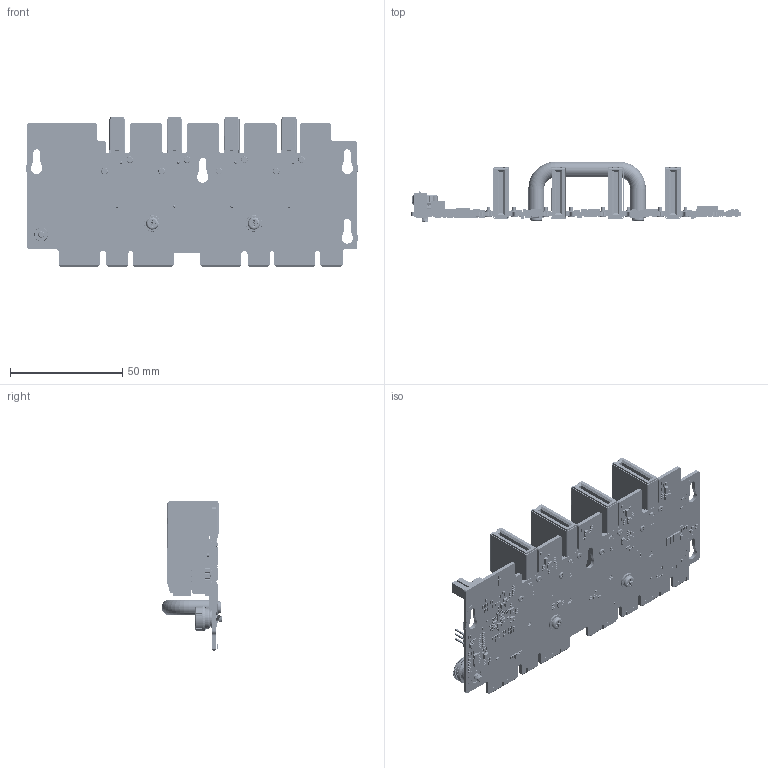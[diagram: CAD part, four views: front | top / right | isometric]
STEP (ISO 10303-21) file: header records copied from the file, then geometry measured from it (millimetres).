
FILE_DESCRIPTION((''),'2;1');
FILE_NAME('02-YOS_V3_EDSFF_EXPANSION_F_Q_A_ASM','2024-02-05T11:05:05',('95030616'),(''),'CREO PARAMETRIC BY PTC INC, 2020281','CREO PARAMETRIC BY PTC INC, 2020281','');
FILE_SCHEMA(('CONFIG_CONTROL_DESIGN'));
Products named in the file (1099): ZZ_0EDGE_021_VER2_1_1; ZZ_0EDGE_021_VER2_1_2; ZZ_0EDGE_021_VER2_1_3; ZZ_0EDGE_021_VER2_1_4; ZZ_0EDGE_021_VER2_1_5; ZZ_0EDGE_021_VER2_1_6; ZZ_0EDGE_021_VER2_1_7; ZZ_0EDGE_021_VER2_1_8; ZZ_0EDGE_021_VER2_1_9; ZZ_0EDGE_021_VER2_1_10; ZZ_0EDGE_021_VER2_1_11; ZZ_0EDGE_021_VER2_1_12; ZZ_0EDGE_021_VER2_1_13; ZZ_0EDGE_021_VER2_1_14; ZZ_0EDGE_021_VER2_1_15; ZZ_0EDGE_021_VER2_1_16; ZZ_0EDGE_021_VER2_1_17; ZZ_0EDGE_021_VER2_1_18; ZZ_0EDGE_021_VER2_1_19; ZZ_0EDGE_021_VER2_1_20; ZZ_0EDGE_021_VER2_1_21; ZZ_0EDGE_021_VER2_1_22; ZZ_0EDGE_021_VER2_1_23; ZZ_0EDGE_021_VER2_1_24; ZZ_0EDGE_021_VER2_1_25; ZZ_0EDGE_021_VER2_1_26; ZZ_0EDGE_021_VER2_1_27; ZZ_0EDGE_021_VER2_1_28; ZZ_0EDGE_021_VER2_1_29; ZZ_0EDGE_021_VER2_1_30; ZZ_0EDGE_021_VER2_1_31; ZZ_0EDGE_021_VER2_1_32; ZZ_0EDGE_021_VER2_1_33; ZZ_0EDGE_021_VER2_1_34; ZZ_0EDGE_021_VER2_1_35; ZZ_0EDGE_021_VER2_1_36; ZZ_0EDGE_021_VER2_1_37; ZZ_0EDGE_021_VER2_1_38; ZZ_0EDGE_021_VER2_1_39; ZZ_0EDGE_021_VER2_1_40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
Assembly tree (1120 placements, depth 5):
  02-YOS_V3_EDSFF_EXPANSION_F_Q_A_ASM
    02-YOS_V3_EDSFF_EXPANSION_F_Q_1_ASM
      YOS_V3_EDSFF_EXPANSION_F_Q_ASM__ASM
        ZZ_0EDGE_021_VER2_1_ASM
          ZZ_0EDGE_021_VER2_1_1
          ZZ_0EDGE_021_VER2_1_2
          ZZ_0EDGE_021_VER2_1_3
          ZZ_0EDGE_021_VER2_1_4
          ZZ_0EDGE_021_VER2_1_5
          ZZ_0EDGE_021_VER2_1_6
          ZZ_0EDGE_021_VER2_1_7
          ZZ_0EDGE_021_VER2_1_8
          ZZ_0EDGE_021_VER2_1_9
          ZZ_0EDGE_021_VER2_1_10
          ZZ_0EDGE_021_VER2_1_11
          ZZ_0EDGE_021_VER2_1_12
          ZZ_0EDGE_021_VER2_1_13
          ZZ_0EDGE_021_VER2_1_14
          ZZ_0EDGE_021_VER2_1_15
          ZZ_0EDGE_021_VER2_1_16
          ZZ_0EDGE_021_VER2_1_17
          ZZ_0EDGE_021_VER2_1_18
          ZZ_0EDGE_021_VER2_1_19
          ZZ_0EDGE_021_VER2_1_20
          ZZ_0EDGE_021_VER2_1_21
          ZZ_0EDGE_021_VER2_1_22
          ZZ_0EDGE_021_VER2_1_23
          ZZ_0EDGE_021_VER2_1_24
          ZZ_0EDGE_021_VER2_1_25
          ZZ_0EDGE_021_VER2_1_26
          ZZ_0EDGE_021_VER2_1_27
          ZZ_0EDGE_021_VER2_1_28
          ZZ_0EDGE_021_VER2_1_29
          ZZ_0EDGE_021_VER2_1_30
          ZZ_0EDGE_021_VER2_1_31
          ZZ_0EDGE_021_VER2_1_32
          ZZ_0EDGE_021_VER2_1_33
          ZZ_0EDGE_021_VER2_1_34
          ZZ_0EDGE_021_VER2_1_35
          ZZ_0EDGE_021_VER2_1_36
          ZZ_0EDGE_021_VER2_1_37
          ZZ_0EDGE_021_VER2_1_38
          ZZ_0EDGE_021_VER2_1_39
          ZZ_0EDGE_021_VER2_1_40
          ZZ_0EDGE_021_VER2_1_41
          ZZ_0EDGE_021_VER2_1_42
          ZZ_0EDGE_021_VER2_1_43
          ZZ_0EDGE_021_VER2_1_44
          ZZ_0EDGE_021_VER2_1_45
          ZZ_0EDGE_021_VER2_1_46
          ZZ_0EDGE_021_VER2_1_47
          ZZ_0EDGE_021_VER2_1_48
          ZZ_0EDGE_021_VER2_1_49
          ZZ_0EDGE_021_VER2_1_50
          ZZ_0EDGE_021_VER2_1_51
          ZZ_0EDGE_021_VER2_1_52
          ZZ_0EDGE_021_VER2_1_53
          ZZ_0EDGE_021_VER2_1_54
          ZZ_0EDGE_021_VER2_1_55
          ZZ_0EDGE_021_VER2_1_56
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Bounding box: 147.91 x 27 x 66.48 mm (x, y, z)
Volume: 31124.3 mm3; surface area: 75156.8 mm2
Topology: 1106 solids, 1118 shells, 29914 faces, 81278 edges, 54024 vertices
Faces by surface type: plane 23460, cylinder 6259, cone 105, torus 60, bspline 26, extrusion 4
Entity records: 433942 total; most frequent: CARTESIAN_POINT 82405, DIRECTION 70108, ORIENTED_EDGE 67495, EDGE_CURVE 33916, VECTOR 29606, LINE 29605, VERTEX_POINT 22573, AXIS2_PLACEMENT_3D 20251
